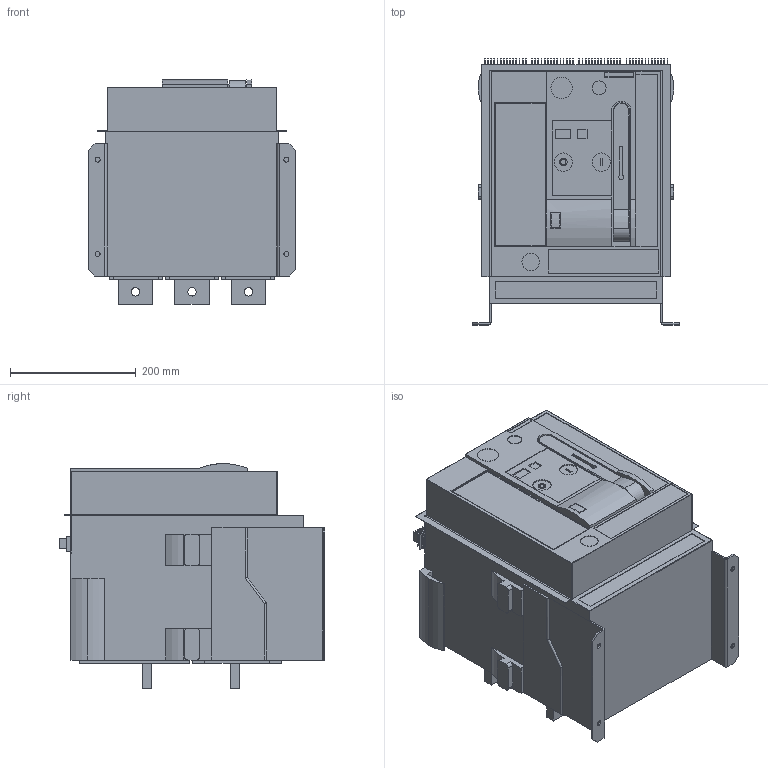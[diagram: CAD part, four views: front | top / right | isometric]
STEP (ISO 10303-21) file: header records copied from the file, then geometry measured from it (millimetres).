
FILE_DESCRIPTION (( 'STEP AP214' ), '1' );
FILE_NAME ('ARION_WL1116-___32.step', '2012-01-10T14:33:09', ( 'Radek Veselý' ), ( 'Siemens and Partners' ), 'SwSTEP 2.0', 'SolidWorks 2006303', '' );
FILE_SCHEMA (( 'AUTOMOTIVE_DESIGN' ));
Length unit declared in the file: millimetre
Products named in the file (1): ARION_WL1116-___32
Bounding box: 328 x 422.4 x 357 mm (x, y, z)
Volume: 30704639 mm3; surface area: 975727.6 mm2
Topology: 4 solids, 4 shells, 1250 faces, 3108 edges, 2055 vertices
Faces by surface type: plane 1007, cylinder 235, sphere 4, torus 4
Entity records: 50577 total; most frequent: CARTESIAN_POINT 6464, ORIENTED_EDGE 6208, DIRECTION 6061, EDGE_CURVE 3104, VECTOR 2629, LINE 2629, VERTEX_POINT 2055, AXIS2_PLACEMENT_3D 1716
